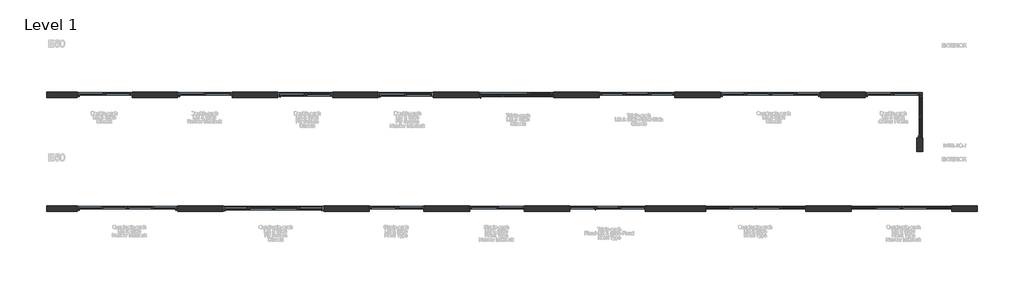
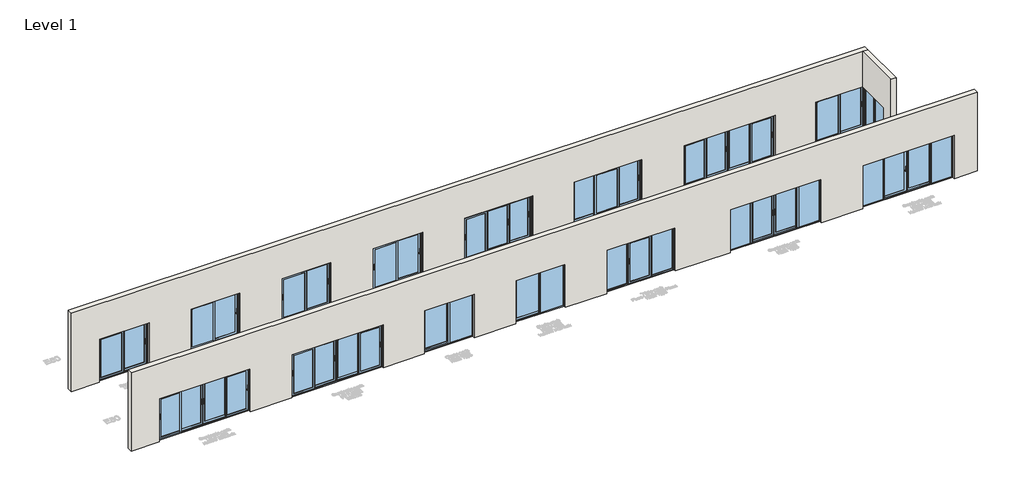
# One storey, part 1 of 17: 16 windows, 3 walls.
"""IFC4 building model written with IfcOpenShell, lengths in millimetres."""

from ifc_helpers import new_model, si_unit, frame, origin, place, context, project, spatial, polyline, outline, extrude, faceted_brep, transform, mapped, element, save
from components import type_1_237cae25, type_1_0951141a, type_1_c6146090, type_1_ba693a51, type_1_2eeac2a6, type_1_0b5c1950, type_1_9b372a41, type_1_19e61f69, type_1_fe7a6dfb, type_1_4424d691, type_1_0126e756, type_1_08f03a68, type_1_fd5323af, type_1_260a64b6, type_1_f72ec58d, type_1_522c6c81, type_1_023e9ecd

model = new_model("IFC4")

# Units and contexts
model_context = context("Model", 3, world=origin())
ifc_project = project(units=[si_unit("LENGTHUNIT", "METRE", prefix="MILLI")], contexts=[model_context])

# Site, building, storey
site = spatial("IfcSite", under=ifc_project)
building = spatial("IfcBuilding", under=site)
storey = spatial("IfcBuildingStorey", under=building, Name="Level 1", Elevation=0.0)

# Walls
placement = place(None, origin())
element("IfcWall", 1, ObjectType="Generic - 250mm", at=placement, inside=storey, context=model_context, shape_type="Brep", body=[
    faceted_brep([(30248.9072375, -143.0546028, 4000.0), (29998.9072375, -143.0546028, 4000.0), (-8171.1254021, -143.0546028, 4000.0), (-8171.1254021, -143.0546028, 0.0), (-6821.1254021, -143.0546028, 0.0), (-6821.1254021, -143.0546028, 2200.0), (-4421.1254021, -143.0546028, 2200.0), (-4421.1254021, -143.0546028, 0.0), (-2421.1254021, -143.0546028, 0.0), (-2421.1254021, -143.0546028, 2200.0), (-21.1254021, -143.0546028, 2200.0), (-21.1254021, -143.0546028, 0.0), (1978.8745979, -143.0546028, 0.0), (1978.8745979, -143.0546028, 2200.0), (4378.8745979, -143.0546028, 2200.0), (4378.8745979, -143.0546028, 0.0), (6378.8745979, -143.0546028, 0.0), (6378.8745979, -143.0546028, 2200.0), (8778.8745979, -143.0546028, 2200.0), (8778.8745979, -143.0546028, 0.0), (10778.8745979, -143.0546028, 0.0), (10778.8745979, -143.0546028, 2200.0), (14078.8745979, -143.0546028, 2200.0), (14078.8745979, -143.0546028, 0.0), (16078.9554319, -143.0546028, 0.0), (16078.9554319, -143.0546028, 2200.0), (19378.9554319, -143.0546028, 2200.0), (19378.9554319, -143.0546028, 0.0), (21378.9554319, -143.0546028, 0.0), (21378.9554319, -143.0546028, 2200.0), (25778.9554319, -143.0546028, 2200.0), (25778.9554319, -143.0546028, 0.0), (27727.4554319, -143.0546028, 0.0), (27727.4554319, -143.0546028, 2200.0), (29998.9072375, -143.0546028, 2200.0), (30248.9072375, -143.0546028, 2200.0), (-8171.1254021, 106.9453972, 4000.0), (30248.9072375, 106.9453972, 4000.0), (30248.9072375, 106.9453972, 2200.0), (29998.9072375, 106.9453972, 2200.0), (27727.4554319, 106.9453972, 2200.0), (27727.4554319, 106.9453972, 0.0), (25778.9554319, 106.9453972, 0.0), (25778.9554319, 106.9453972, 2200.0), (21378.9554319, 106.9453972, 2200.0), (21378.9554319, 106.9453972, 0.0), (19378.9554319, 106.9453972, 0.0), (19378.9554319, 106.9453972, 2200.0), (16078.9554319, 106.9453972, 2200.0), (16078.9554319, 106.9453972, 0.0), (14078.8745979, 106.9453972, 0.0), (14078.8745979, 106.9453972, 2200.0), (10778.8745979, 106.9453972, 2200.0), (10778.8745979, 106.9453972, 0.0), (8778.8745979, 106.9453972, 0.0), (8778.8745979, 106.9453972, 2200.0), (6378.8745979, 106.9453972, 2200.0), (6378.8745979, 106.9453972, 0.0), (4378.8745979, 106.9453972, 0.0), (4378.8745979, 106.9453972, 2200.0), (1978.8745979, 106.9453972, 2200.0), (1978.8745979, 106.9453972, 0.0), (-21.1254021, 106.9453972, 0.0), (-21.1254021, 106.9453972, 2200.0), (-2421.1254021, 106.9453972, 2200.0), (-2421.1254021, 106.9453972, 0.0), (-4421.1254021, 106.9453972, 0.0), (-4421.1254021, 106.9453972, 2200.0), (-6821.1254021, 106.9453972, 2200.0), (-6821.1254021, 106.9453972, 0.0), (-8171.1254021, 106.9453972, 0.0)], [[[0, 1, 2, 3, 4, 5, 6, 7, 8, 9, 10, 11, 12, 13, 14, 15, 16, 17, 18, 19, 20, 21, 22, 23, 24, 25, 26, 27, 28, 29, 30, 31, 32, 33, 34, 35]], [[36, 37, 38, 39, 40, 41, 42, 43, 44, 45, 46, 47, 48, 49, 50, 51, 52, 53, 54, 55, 56, 57, 58, 59, 60, 61, 62, 63, 64, 65, 66, 67, 68, 69, 70]], [[3, 70, 69, 4]], [[7, 66, 65, 8]], [[61, 12, 11, 62]], [[15, 58, 57, 16]], [[19, 54, 53, 20]], [[23, 50, 49, 24]], [[27, 46, 45, 28]], [[31, 42, 41, 32]], [[2, 1, 0, 37, 36]], [[3, 2, 36, 70]], [[68, 5, 4, 69]], [[5, 68, 67, 6]], [[6, 67, 66, 7]], [[60, 13, 12, 61]], [[13, 60, 59, 14]], [[14, 59, 58, 15]], [[64, 9, 8, 65]], [[9, 64, 63, 10]], [[10, 63, 62, 11]], [[56, 17, 16, 57]], [[17, 56, 55, 18]], [[18, 55, 54, 19]], [[52, 21, 20, 53]], [[21, 52, 51, 22]], [[22, 51, 50, 23]], [[48, 25, 24, 49]], [[25, 48, 47, 26]], [[26, 47, 46, 27]], [[44, 29, 28, 45]], [[29, 44, 43, 30]], [[30, 43, 42, 31]], [[40, 33, 32, 41]], [[33, 40, 39, 38, 35, 34]], [[37, 0, 35, 38]]]),
])
element("IfcWall", 2, ObjectType="Generic - 250mm", at=placement, inside=storey, context=model_context, shape_type="SweptSolid", body=[
    extrude(outline(polyline([(0.0, 32656.3607098), (4000.0, 32656.3607098), (4000.0, -8171.1254021), (0.0, -8171.1254021), (0.0, -6821.1254021), (2200.0, -6821.1254021), (2200.0, -2421.1254021), (0.0, -2421.1254021), (0.0, -421.1254021), (2200.0, -421.1254021), (2200.0, 3978.8745979), (0.0, 3978.8745979), (0.0, 5978.8745979), (2200.0, 5978.8745979), (2200.0, 8378.8745979), (0.0, 8378.8745979), (0.0, 10378.8745979), (2200.0, 10378.8745979), (2200.0, 12778.8745979), (0.0, 12778.8745979), (0.0, 14778.8745979), (2200.0, 14778.8745979), (2200.0, 18078.8745979), (0.0, 18078.8745979), (0.0, 20729.7128859), (2200.0, 20729.7128859), (2200.0, 25129.7128859), (0.0, 25129.7128859), (0.0, 27129.7128859), (2200.0, 27129.7128859), (2200.0, 31529.7128859), (0.0, 31529.7128859), (0.0, 32656.3607098)])), frame((0.0, -5143.0546028, 0.0), z_axis=(0.0, 1.0, 0.0), x_axis=(0.0, 0.0, 1.0)), (0.0, 0.0, 1.0), 250.0),
])
element("IfcWall", 3, ObjectType="Generic - 250mm", at=placement, inside=storey, context=model_context, shape_type="SweptSolid", body=[
    extrude(outline(polyline([(-2518.0546028, 4000.0), (-143.0546028, 4000.0), (-143.0546028, 2200.0), (-1914.5064084, 2200.0), (-1914.5064084, 0.0), (-2518.0546028, 0.0), (-2518.0546028, 4000.0)])), frame((29998.9072375, 0.0, 0.0), z_axis=(1.0, 0.0, 0.0), x_axis=(0.0, 1.0, 0.0)), (0.0, 0.0, 1.0), 250.0),
])

# Windows
type_1_shape = type_1_237cae25(model_context)
element("IfcWindow", 4, ObjectType="ETEM_E50_Double_Lift_Sliding_NI : Type 1", at=placement, inside=storey, context=model_context, shape_type="MappedRepresentation", body=[
    mapped(type_1_shape, transform((-1221.1254021, -19.1546028, 0.0), x_axis=(1.0, 0.0, 0.0), y_axis=(0.0, 1.0, 0.0), z_axis=(0.0, 0.0, 1.0))),
])
type_1_2_shape = type_1_0951141a(model_context)
element("IfcWindow", 5, ObjectType="ETEM_E50_Double_Lift_Sliding : Type 1", at=placement, inside=storey, context=model_context, shape_type="MappedRepresentation", body=[
    mapped(type_1_2_shape, transform((-5621.1254021, -18.0546028, 0.0), x_axis=(1.0, 0.0, 0.0), y_axis=(0.0, 1.0, 0.0), z_axis=(0.0, 0.0, 1.0))),
])
type_1_3_shape = type_1_c6146090(model_context)
element("IfcWindow", 6, ObjectType="ETEM_E50_Double_Fly Screen_Lift_Sliding : Type 1", at=placement, inside=storey, context=model_context, shape_type="MappedRepresentation", body=[
    mapped(type_1_3_shape, transform((3178.8745979, -18.0546028, 0.0), x_axis=(1.0, 0.0, 0.0), y_axis=(0.0, 1.0, 0.0), z_axis=(0.0, 0.0, 1.0))),
])
type_1_4_shape = type_1_ba693a51(model_context)
element("IfcWindow", 7, ObjectType="ETEM_E50_Double_Fly Screen_NI_Lift_Sliding : Type 1", at=placement, inside=storey, context=model_context, shape_type="MappedRepresentation", body=[
    mapped(type_1_4_shape, transform((7578.8745979, -18.0546028, 0.0), x_axis=(1.0, 0.0, 0.0), y_axis=(0.0, 1.0, 0.0), z_axis=(0.0, 0.0, 1.0))),
])
type_1_5_shape = type_1_2eeac2a6(model_context)
element("IfcWindow", 8, ObjectType="ETEM_E50_Quadruple_Lift_Sliding_HT_NI : Type 1", at=placement, inside=storey, context=model_context, shape_type="MappedRepresentation", body=[
    mapped(type_1_5_shape, transform((29329.7128859, -5018.0546028, 0.0), x_axis=(1.0, 0.0, 0.0), y_axis=(0.0, 1.0, 0.0), z_axis=(0.0, 0.0, 1.0))),
])
type_1_6_shape = type_1_0b5c1950(model_context)
element("IfcWindow", 9, ObjectType="ETEM_E50_Quadruple_Lift_Sliding_HT : Type 1", at=placement, inside=storey, context=model_context, shape_type="MappedRepresentation", body=[
    mapped(type_1_6_shape, transform((22929.7128859, -5018.0546028, 0.0), x_axis=(1.0, 0.0, 0.0), y_axis=(0.0, 1.0, 0.0), z_axis=(0.0, 0.0, 1.0))),
])
type_1_7_shape = type_1_9b372a41(model_context)
element("IfcWindow", 10, ObjectType="ETEM_E50_Single_Lift_Sliding_HT : Type 1", at=placement, inside=storey, context=model_context, shape_type="MappedRepresentation", body=[
    mapped(type_1_7_shape, transform((7178.8745979, -5018.0546028, 0.0), x_axis=(1.0, 0.0, 0.0), y_axis=(0.0, 1.0, 0.0), z_axis=(0.0, 0.0, 1.0))),
])
type_1_8_shape = type_1_19e61f69(model_context)
element("IfcWindow", 11, ObjectType="ETEM_E50_Single_Lift_Sliding_HT_NI : Type 1", at=placement, inside=storey, context=model_context, shape_type="MappedRepresentation", body=[
    mapped(type_1_8_shape, transform((11578.8745979, -5018.0546028, 0.0), x_axis=(1.0, 0.0, 0.0), y_axis=(0.0, 1.0, 0.0), z_axis=(0.0, 0.0, 1.0))),
])
type_1_9_shape = type_1_fe7a6dfb(model_context)
element("IfcWindow", 12, ObjectType="ETEM_E50_Triple_Lift_Sliding : Type 1", at=placement, inside=storey, context=model_context, shape_type="MappedRepresentation", body=[
    mapped(type_1_9_shape, transform((12428.8745979, -18.0546028, 0.0), x_axis=(1.0, 0.0, 0.0), y_axis=(0.0, 1.0, 0.0), z_axis=(0.0, 0.0, 1.0))),
])
type_1_10_shape = type_1_4424d691(model_context)
element("IfcWindow", 13, ObjectType="ETEM_E50_Quadruple_Lift_Sliding : Type 1", at=placement, inside=storey, context=model_context, shape_type="MappedRepresentation", body=[
    mapped(type_1_10_shape, transform((23578.9554319, -18.0546028, 0.0), x_axis=(1.0, 0.0, 0.0), y_axis=(0.0, 1.0, 0.0), z_axis=(0.0, 0.0, 1.0))),
])
type_1_11_shape = type_1_0126e756(model_context)
element("IfcWindow", 14, ObjectType="ETEM_E50_Quadruple_Lift_Sliding_NI : Type 1", at=placement, inside=storey, context=model_context, shape_type="MappedRepresentation", body=[
    mapped(type_1_11_shape, transform((-4621.1254021, -5018.0546028, 0.0), x_axis=(1.0, 0.0, 0.0), y_axis=(0.0, 1.0, 0.0), z_axis=(0.0, 0.0, 1.0))),
])
type_1_12_shape = type_1_08f03a68(model_context)
type_1_13_shape = type_1_fd5323af(model_context)
element("IfcWindow", 15, ObjectType="ETEM_E50_Quadruple_Fly Screen_Lift_Sliding : Type 1", at=placement, inside=storey, context=model_context, shape_type="MappedRepresentation", body=[
    mapped(type_1_12_shape, transform((1778.8745979, -5018.0546028, 0.0), x_axis=(1.0, 0.0, 0.0), y_axis=(0.0, 1.0, 0.0), z_axis=(0.0, 0.0, 1.0))),
    mapped(type_1_13_shape, transform((1778.8745979, -5018.0546028, 0.0), x_axis=(1.0, 0.0, 0.0), y_axis=(0.0, 1.0, 0.0), z_axis=(0.0, 0.0, 1.0))),
])
type_1_14_shape = type_1_260a64b6(model_context)
element("IfcWindow", 16, ObjectType="ETEM_E50_Triple_Lift_Fixed-Sliding-Fixed_HT : Type 1", at=placement, inside=storey, context=model_context, shape_type="MappedRepresentation", body=[
    mapped(type_1_14_shape, transform((16428.8745979, -5018.0546028, 0.0), x_axis=(1.0, 0.0, 0.0), y_axis=(0.0, 1.0, 0.0), z_axis=(0.0, 0.0, 1.0))),
])
type_1_15_shape = type_1_f72ec58d(model_context)
element("IfcWindow", 17, ObjectType="ETEM_E50_Triple_Lift_Sliding-Fixed-Sliding : Type 1", at=placement, inside=storey, context=model_context, shape_type="MappedRepresentation", body=[
    mapped(type_1_15_shape, transform((17728.9554319, -18.0546028, 0.0), x_axis=(1.0, 0.0, 0.0), y_axis=(0.0, 1.0, 0.0), z_axis=(0.0, 0.0, 1.0))),
])
type_1_16_shape = type_1_522c6c81(model_context)
element("IfcWindow", 18, ObjectType="ETEM_E50_Double_Lift_Sliding-Corner Profile : Type 1", at=placement, inside=storey, context=model_context, shape_type="MappedRepresentation", body=[
    mapped(type_1_16_shape, transform((30123.9072375, -914.5064084, 0.0), x_axis=(0.0, 1.0, 0.0), y_axis=(-1.0, 0.0, 0.0), z_axis=(0.0, 0.0, 1.0))),
])
type_1_17_shape = type_1_023e9ecd(model_context)
element("IfcWindow", 19, ObjectType="ETEM_E50_Double_Lift_Sliding-Corner Profile : Type 1", at=placement, inside=storey, context=model_context, shape_type="MappedRepresentation", body=[
    mapped(type_1_17_shape, transform((28977.4554319, -18.0546028, 0.0), x_axis=(1.0, 0.0, 0.0), y_axis=(0.0, 1.0, 0.0), z_axis=(0.0, 0.0, 1.0))),
])

save(model, "model.ifc")
